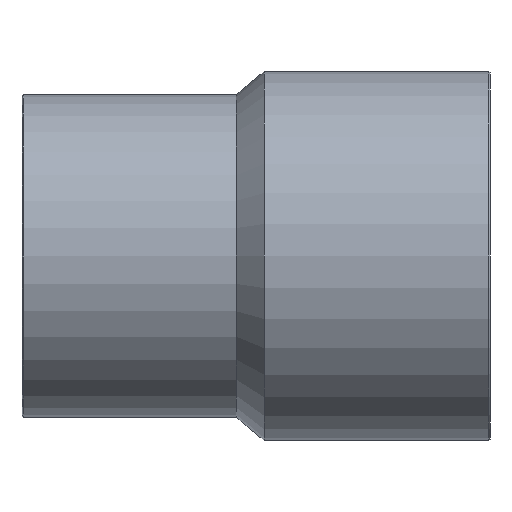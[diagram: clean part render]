
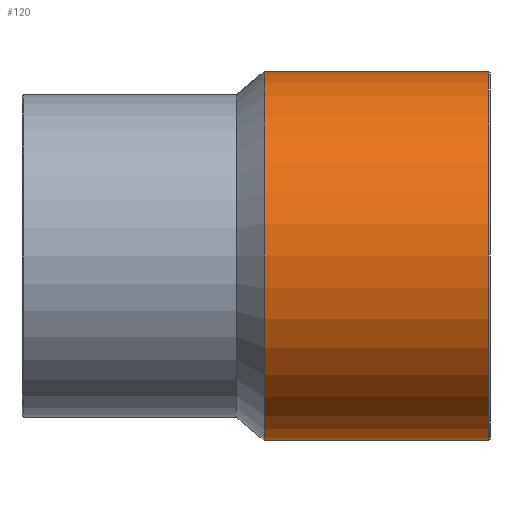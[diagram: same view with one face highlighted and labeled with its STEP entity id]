
A CAD part, front view. The second image highlights one B-rep face of the part: STEP entity #120.
In plain terms, the highlighted cylindrical face has radius 80 mm (diameter 160 mm), a full revolution.
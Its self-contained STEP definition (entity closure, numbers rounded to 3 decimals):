
#26=ORIENTED_EDGE('',*,*,#46,.T.);
#27=ORIENTED_EDGE('',*,*,#47,.F.);
#46=EDGE_CURVE('',#56,#56,#66,.T.);
#47=EDGE_CURVE('',#57,#57,#67,.T.);
#56=VERTEX_POINT('',#208);
#57=VERTEX_POINT('',#210);
#66=CIRCLE('',#144,80.);
#67=CIRCLE('',#145,80.);
#76=EDGE_LOOP('',(#26));
#77=EDGE_LOOP('',(#27));
#96=FACE_BOUND('',#76,.T.);
#97=FACE_BOUND('',#77,.T.);
#116=CYLINDRICAL_SURFACE('',#143,80.);
#120=ADVANCED_FACE('',(#96,#97),#116,.T.);
#143=AXIS2_PLACEMENT_3D('',#206,#165,#166);
#144=AXIS2_PLACEMENT_3D('',#207,#167,#168);
#145=AXIS2_PLACEMENT_3D('',#209,#169,#170);
#165=DIRECTION('',(-1.,0.,0.));
#166=DIRECTION('',(0.,0.,1.));
#167=DIRECTION('',(-1.,0.,0.));
#168=DIRECTION('',(0.,0.,1.));
#169=DIRECTION('',(-1.,0.,0.));
#170=DIRECTION('',(0.,0.,1.));
#206=CARTESIAN_POINT('',(-60.,0.,0.));
#207=CARTESIAN_POINT('',(103.5,0.,0.));
#208=CARTESIAN_POINT('',(103.5,0.,80.));
#209=CARTESIAN_POINT('',(6.,0.,0.));
#210=CARTESIAN_POINT('',(6.,0.,80.));
